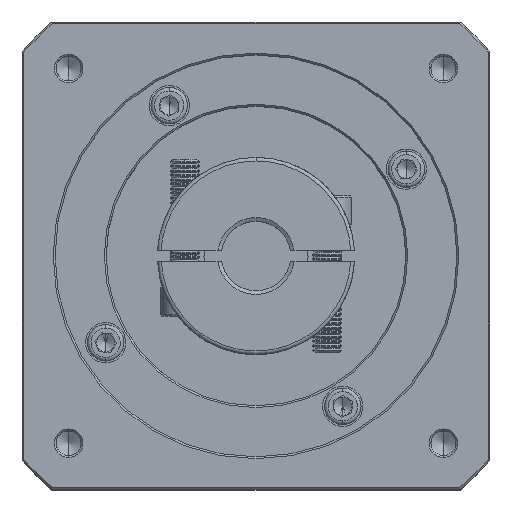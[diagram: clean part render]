
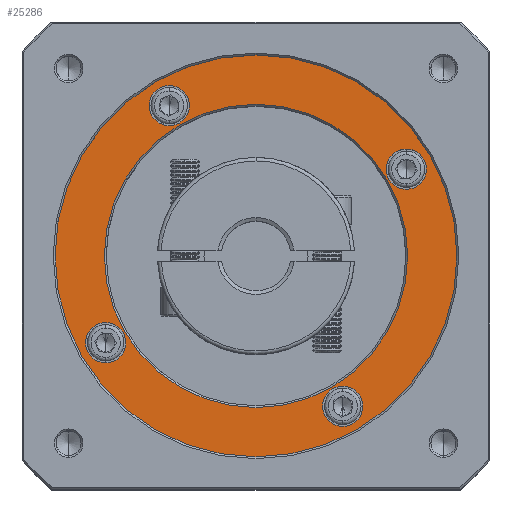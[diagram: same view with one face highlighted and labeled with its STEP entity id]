
A CAD part, top view. The second image highlights one B-rep face of the part: STEP entity #25286.
In plain terms, the highlighted planar face has unit normal (0, 0, 1).
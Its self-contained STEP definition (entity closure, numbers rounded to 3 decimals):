
#158 = VERTEX_POINT ( 'NONE', #8573 ) ;
#513 = EDGE_CURVE ( 'NONE', #44275, #76007, #52847, .T. ) ;
#1475 = FACE_BOUND ( 'NONE', #91897, .T. ) ;
#1983 = ORIENTED_EDGE ( 'NONE', *, *, #21780, .T. ) ;
#3433 = PLANE ( 'NONE',  #17101 ) ;
#3443 = DIRECTION ( 'NONE',  ( 0., 0., -1. ) ) ;
#4658 = AXIS2_PLACEMENT_3D ( 'NONE', #67637, #129108, #118398 ) ;
#4984 = CARTESIAN_POINT ( 'NONE',  ( 35.546, 74.848, -8.954 ) ) ;
#7623 = EDGE_CURVE ( 'NONE', #79904, #82610, #59239, .T. ) ;
#8573 = CARTESIAN_POINT ( 'NONE',  ( 18.16, 9.961, -8.954 ) ) ;
#11145 = EDGE_LOOP ( 'NONE', ( #91802, #34314 ) ) ;
#11884 = CIRCLE ( 'NONE', #31148, 5.5 ) ;
#12371 = DIRECTION ( 'NONE',  ( 0., 1., 0. ) ) ;
#13222 = EDGE_LOOP ( 'NONE', ( #101122, #49436 ) ) ;
#13331 = EDGE_CURVE ( 'NONE', #29648, #17481, #78165, .T. ) ;
#13709 = DIRECTION ( 'NONE',  ( 1., 0., 0. ) ) ;
#13864 = VERTEX_POINT ( 'NONE', #76631 ) ;
#14703 = DIRECTION ( 'NONE',  ( 0., 0., -1. ) ) ;
#17101 = AXIS2_PLACEMENT_3D ( 'NONE', #65433, #43769, #12371 ) ;
#17481 = VERTEX_POINT ( 'NONE', #98603 ) ;
#18486 = CARTESIAN_POINT ( 'NONE',  ( 59.296, 39.211, -8.954 ) ) ;
#19149 = VERTEX_POINT ( 'NONE', #91406 ) ;
#19674 = CARTESIAN_POINT ( 'NONE',  ( 35.546, 80.348, -8.954 ) ) ;
#21780 = EDGE_CURVE ( 'NONE', #17481, #29648, #111542, .T. ) ;
#22268 = CARTESIAN_POINT ( 'NONE',  ( 59.296, 39.211, -8.954 ) ) ;
#23498 = CARTESIAN_POINT ( 'NONE',  ( 59.296, 39.211, -8.954 ) ) ;
#24263 = DIRECTION ( 'NONE',  ( 0., 1., 0. ) ) ;
#25286 = ADVANCED_FACE ( 'NONE', ( #28681, #101099, #80186, #131590, #1475, #85057 ), #3433, .T. ) ;
#25495 = DIRECTION ( 'NONE',  ( 0., 1., 0. ) ) ;
#25572 = CARTESIAN_POINT ( 'NONE',  ( 18.16, 15.461, -8.954 ) ) ;
#25774 = CARTESIAN_POINT ( 'NONE',  ( 59.296, 39.211, -8.954 ) ) ;
#28681 = FACE_OUTER_BOUND ( 'NONE', #88506, .T. ) ;
#28782 = CIRCLE ( 'NONE', #45119, 55. ) ;
#29648 = VERTEX_POINT ( 'NONE', #29951 ) ;
#29951 = CARTESIAN_POINT ( 'NONE',  ( 100.796, 39.211, -8.954 ) ) ;
#31148 = AXIS2_PLACEMENT_3D ( 'NONE', #96569, #75471, #106857 ) ;
#33762 = EDGE_CURVE ( 'NONE', #36485, #35262, #75614, .T. ) ;
#34314 = ORIENTED_EDGE ( 'NONE', *, *, #33762, .T. ) ;
#35262 = VERTEX_POINT ( 'NONE', #65791 ) ;
#36485 = VERTEX_POINT ( 'NONE', #94865 ) ;
#38901 = EDGE_CURVE ( 'NONE', #82610, #79904, #28782, .T. ) ;
#39124 = DIRECTION ( 'NONE',  ( 0., 1., 0. ) ) ;
#42778 = AXIS2_PLACEMENT_3D ( 'NONE', #19674, #42978, #62434 ) ;
#42978 = DIRECTION ( 'NONE',  ( 0., 0., -1. ) ) ;
#43769 = DIRECTION ( 'NONE',  ( 0., 0., 1. ) ) ;
#44275 = VERTEX_POINT ( 'NONE', #4984 ) ;
#45119 = AXIS2_PLACEMENT_3D ( 'NONE', #18486, #59366, #39124 ) ;
#46416 = DIRECTION ( 'NONE',  ( 0., 1., 0. ) ) ;
#47733 = EDGE_LOOP ( 'NONE', ( #82490, #53426 ) ) ;
#47952 = DIRECTION ( 'NONE',  ( 0., 1., 0. ) ) ;
#48709 = CARTESIAN_POINT ( 'NONE',  ( 18.16, 20.961, -8.954 ) ) ;
#49074 = ORIENTED_EDGE ( 'NONE', *, *, #38901, .T. ) ;
#49436 = ORIENTED_EDGE ( 'NONE', *, *, #90690, .T. ) ;
#49725 = EDGE_CURVE ( 'NONE', #35262, #36485, #74531, .T. ) ;
#52594 = ORIENTED_EDGE ( 'NONE', *, *, #98172, .T. ) ;
#52847 = CIRCLE ( 'NONE', #42778, 5.5 ) ;
#53426 = ORIENTED_EDGE ( 'NONE', *, *, #513, .T. ) ;
#56316 = DIRECTION ( 'NONE',  ( 0., 1., 0. ) ) ;
#57200 = DIRECTION ( 'NONE',  ( 0., 0., -1. ) ) ;
#57393 = CARTESIAN_POINT ( 'NONE',  ( 35.546, 85.848, -8.954 ) ) ;
#59239 = CIRCLE ( 'NONE', #82619, 55. ) ;
#59366 = DIRECTION ( 'NONE',  ( 0., 0., 1. ) ) ;
#62434 = DIRECTION ( 'NONE',  ( 0., 1., 0. ) ) ;
#64044 = DIRECTION ( 'NONE',  ( 1., 0., 0. ) ) ;
#64810 = CIRCLE ( 'NONE', #4658, 5.5 ) ;
#64924 = AXIS2_PLACEMENT_3D ( 'NONE', #77038, #57200, #56316 ) ;
#65433 = CARTESIAN_POINT ( 'NONE',  ( 59.296, 39.211, -8.954 ) ) ;
#65581 = AXIS2_PLACEMENT_3D ( 'NONE', #23498, #125956, #64044 ) ;
#65791 = CARTESIAN_POINT ( 'NONE',  ( 83.046, 3.575, -8.954 ) ) ;
#66496 = CARTESIAN_POINT ( 'NONE',  ( 83.046, -1.925, -8.954 ) ) ;
#67637 = CARTESIAN_POINT ( 'NONE',  ( 18.16, 15.461, -8.954 ) ) ;
#68427 = CIRCLE ( 'NONE', #64924, 5.5 ) ;
#68476 = EDGE_LOOP ( 'NONE', ( #98457, #1983 ) ) ;
#71454 = AXIS2_PLACEMENT_3D ( 'NONE', #22268, #3443, #13709 ) ;
#74531 = CIRCLE ( 'NONE', #87251, 5.5 ) ;
#74825 = AXIS2_PLACEMENT_3D ( 'NONE', #96578, #14703, #25495 ) ;
#75471 = DIRECTION ( 'NONE',  ( 0., 0., -1. ) ) ;
#75614 = CIRCLE ( 'NONE', #104346, 5.5 ) ;
#76007 = VERTEX_POINT ( 'NONE', #57393 ) ;
#76631 = CARTESIAN_POINT ( 'NONE',  ( 100.432, 57.461, -8.954 ) ) ;
#76725 = ORIENTED_EDGE ( 'NONE', *, *, #7623, .T. ) ;
#77038 = CARTESIAN_POINT ( 'NONE',  ( 100.432, 62.961, -8.954 ) ) ;
#78165 = CIRCLE ( 'NONE', #71454, 41.5 ) ;
#79904 = VERTEX_POINT ( 'NONE', #87110 ) ;
#80186 = FACE_BOUND ( 'NONE', #47733, .T. ) ;
#82490 = ORIENTED_EDGE ( 'NONE', *, *, #109662, .T. ) ;
#82610 = VERTEX_POINT ( 'NONE', #92551 ) ;
#82619 = AXIS2_PLACEMENT_3D ( 'NONE', #25774, #108018, #46416 ) ;
#85057 = FACE_BOUND ( 'NONE', #11145, .T. ) ;
#86690 = DIRECTION ( 'NONE',  ( 0., 0., -1. ) ) ;
#87110 = CARTESIAN_POINT ( 'NONE',  ( 59.296, 94.211, -8.954 ) ) ;
#87251 = AXIS2_PLACEMENT_3D ( 'NONE', #66496, #107760, #47952 ) ;
#88317 = EDGE_CURVE ( 'NONE', #19149, #13864, #68427, .T. ) ;
#88506 = EDGE_LOOP ( 'NONE', ( #76725, #49074 ) ) ;
#89041 = AXIS2_PLACEMENT_3D ( 'NONE', #25572, #86690, #24263 ) ;
#90690 = EDGE_CURVE ( 'NONE', #13864, #19149, #109082, .T. ) ;
#91406 = CARTESIAN_POINT ( 'NONE',  ( 100.432, 68.461, -8.954 ) ) ;
#91802 = ORIENTED_EDGE ( 'NONE', *, *, #49725, .T. ) ;
#91897 = EDGE_LOOP ( 'NONE', ( #52594, #97514 ) ) ;
#92361 = CIRCLE ( 'NONE', #89041, 5.5 ) ;
#92551 = CARTESIAN_POINT ( 'NONE',  ( 59.296, -15.789, -8.954 ) ) ;
#93883 = VERTEX_POINT ( 'NONE', #48709 ) ;
#94865 = CARTESIAN_POINT ( 'NONE',  ( 83.046, -7.425, -8.954 ) ) ;
#96306 = DIRECTION ( 'NONE',  ( 0., 1., 0. ) ) ;
#96569 = CARTESIAN_POINT ( 'NONE',  ( 35.546, 80.348, -8.954 ) ) ;
#96578 = CARTESIAN_POINT ( 'NONE',  ( 100.432, 62.961, -8.954 ) ) ;
#96739 = DIRECTION ( 'NONE',  ( 0., 0., -1. ) ) ;
#97514 = ORIENTED_EDGE ( 'NONE', *, *, #109989, .T. ) ;
#98172 = EDGE_CURVE ( 'NONE', #93883, #158, #92361, .T. ) ;
#98457 = ORIENTED_EDGE ( 'NONE', *, *, #13331, .T. ) ;
#98603 = CARTESIAN_POINT ( 'NONE',  ( 17.796, 39.211, -8.954 ) ) ;
#101099 = FACE_BOUND ( 'NONE', #68476, .T. ) ;
#101122 = ORIENTED_EDGE ( 'NONE', *, *, #88317, .T. ) ;
#104346 = AXIS2_PLACEMENT_3D ( 'NONE', #106143, #96739, #96306 ) ;
#106143 = CARTESIAN_POINT ( 'NONE',  ( 83.046, -1.925, -8.954 ) ) ;
#106857 = DIRECTION ( 'NONE',  ( 0., 1., 0. ) ) ;
#107760 = DIRECTION ( 'NONE',  ( 0., 0., -1. ) ) ;
#108018 = DIRECTION ( 'NONE',  ( 0., 0., 1. ) ) ;
#109082 = CIRCLE ( 'NONE', #74825, 5.5 ) ;
#109662 = EDGE_CURVE ( 'NONE', #76007, #44275, #11884, .T. ) ;
#109989 = EDGE_CURVE ( 'NONE', #158, #93883, #64810, .T. ) ;
#111542 = CIRCLE ( 'NONE', #65581, 41.5 ) ;
#118398 = DIRECTION ( 'NONE',  ( 0., 1., 0. ) ) ;
#125956 = DIRECTION ( 'NONE',  ( 0., 0., -1. ) ) ;
#129108 = DIRECTION ( 'NONE',  ( 0., 0., -1. ) ) ;
#131590 = FACE_BOUND ( 'NONE', #13222, .T. ) ;
